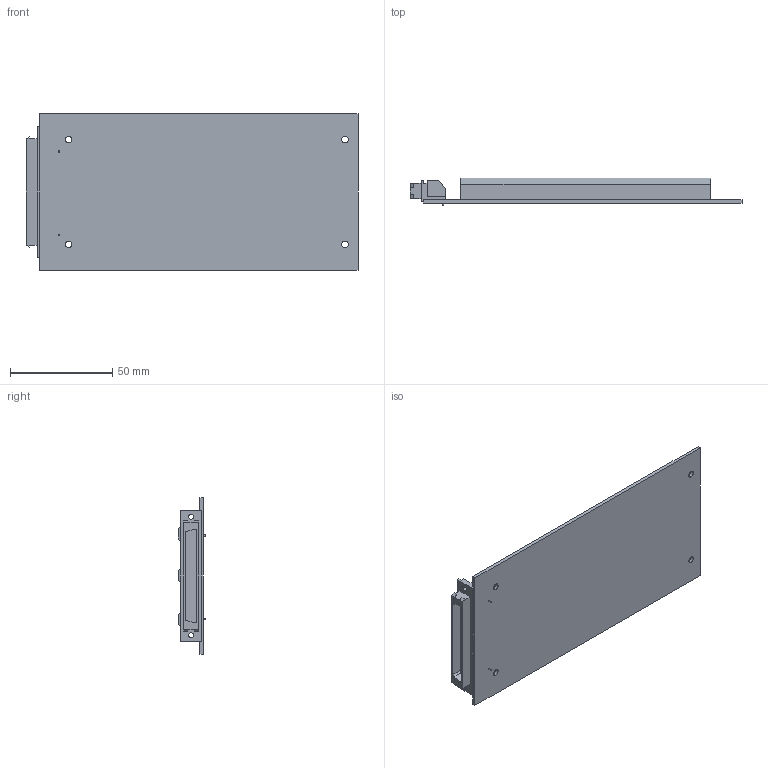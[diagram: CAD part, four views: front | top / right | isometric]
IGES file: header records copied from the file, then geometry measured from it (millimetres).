
Start section:  PTC IGES file: cu_cb-68lpr.igs
Global section: file name: cu_cb-68lpr.igs; native system: Pro/ENGINEER by Parametric Technology Corporation; preprocessor: 2006080; author: lmcdanie; organization: Unknown; date: 070813.135020; units: inch
Bounding box: 161.96 x 13.56 x 76.2 mm (x, y, z)
Surface area: 34070.9 mm2 (no closed solid volume)
Topology: 0 solids, 0 shells, 101 faces, 532 edges, 532 vertices
Faces by surface type: bspline 77, revolution 24
